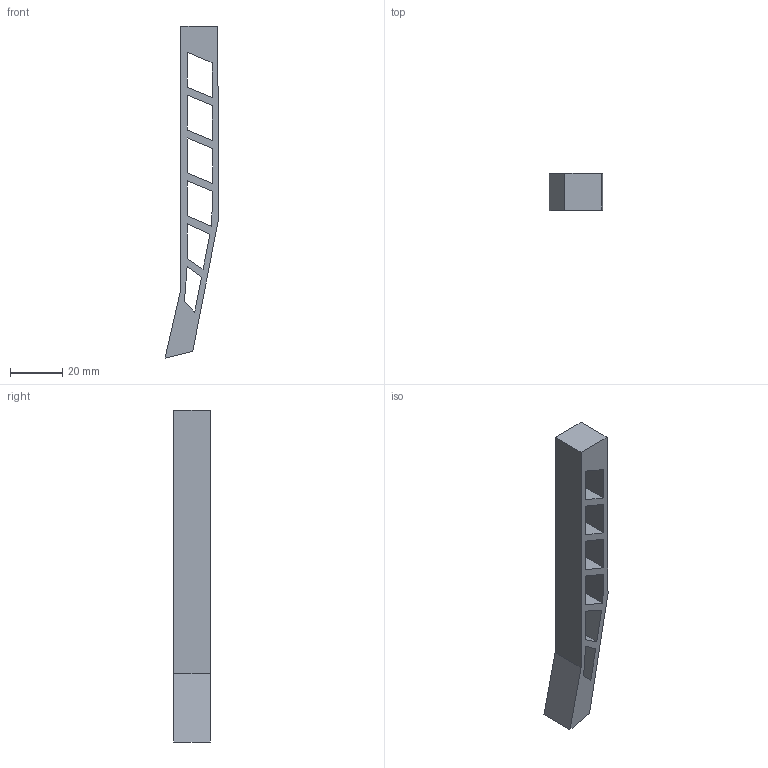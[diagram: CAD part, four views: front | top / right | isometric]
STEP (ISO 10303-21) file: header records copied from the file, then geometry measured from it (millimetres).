
FILE_DESCRIPTION(('Open CASCADE Model'),'2;1');
FILE_NAME('Open CASCADE Shape Model','2026-10-15T18:27:22',('Author'),( 'Open CASCADE'),'Open CASCADE STEP processor 7.9','Open CASCADE 7.9' ,'Unknown');
FILE_SCHEMA(('AUTOMOTIVE_DESIGN { 1 0 10303 214 1 1 1 1 }'));
Length unit declared in the file: millimetre
Products named in the file (1): Open CASCADE STEP translator 7.9 13
Bounding box: 20.5 x 14 x 126.5 mm (x, y, z)
Volume: 12796.8 mm3; surface area: 9528 mm2
Topology: 1 solids, 1 shells, 32 faces, 90 edges, 60 vertices
Faces by surface type: plane 32
Entity records: 2122 total; most frequent: CARTESIAN_POINT 459, DIRECTION 240, ORIENTED_EDGE 180, PCURVE 180, DEFINITIONAL_REPRESENTATION 180, LINE 174, VECTOR 174, B_SPLINE_CURVE_WITH_KNOTS 96
